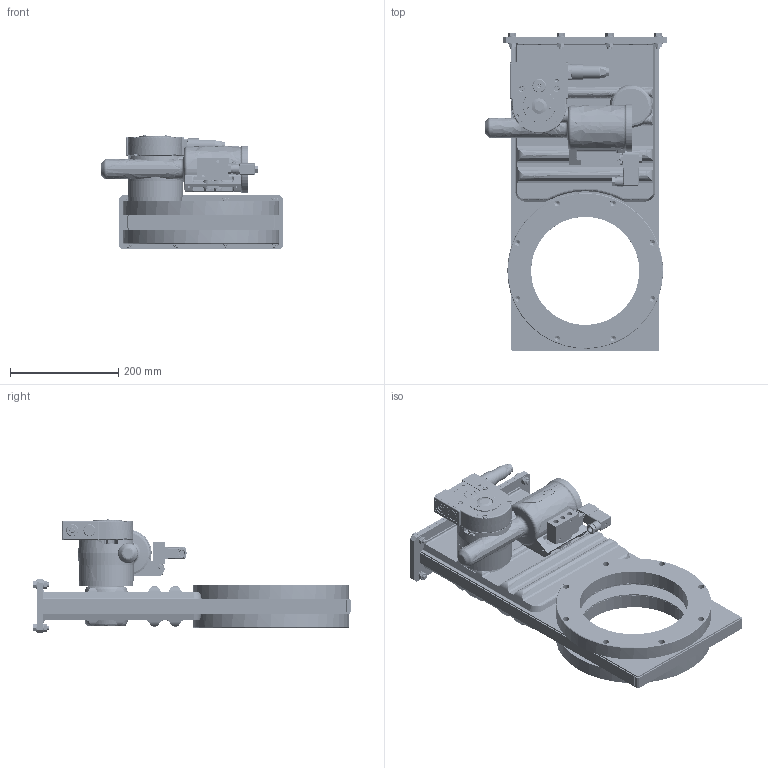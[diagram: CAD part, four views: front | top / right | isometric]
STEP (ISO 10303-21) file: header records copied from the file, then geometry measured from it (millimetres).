
FILE_DESCRIPTION((''),'2;1');
FILE_NAME('O:\MT\MT\Systeme\Cad\Datenexporte\www_vat_ch\95591.stp','2005-07-29T15:47:01',('User'),('SDRC'),'I-DEAS Master Series 9','UNIX','Yes');
FILE_SCHEMA(('CONFIG_CONTROL_DESIGN'));
Length unit declared in the file: millimetre
Assembly tree (80 placements, depth 0):
Bounding box: 338 x 587.9 x 211.95 mm (x, y, z)
Volume: 4062387.8 mm3; surface area: 1429844 mm2
Topology: 109 solids, 109 shells, 3056 faces, 7082 edges, 4526 vertices
Faces by surface type: bspline 3056
Entity records: 81860 total; most frequent: CARTESIAN_POINT 44331, ORIENTED_EDGE 10508, EDGE_CURVE 5254, VERTEX_POINT 3379, EDGE_LOOP 2563, FACE_OUTER_BOUND 2179, ADVANCED_FACE 2179, B_SPLINE_CURVE_WITH_KNOTS 1772
